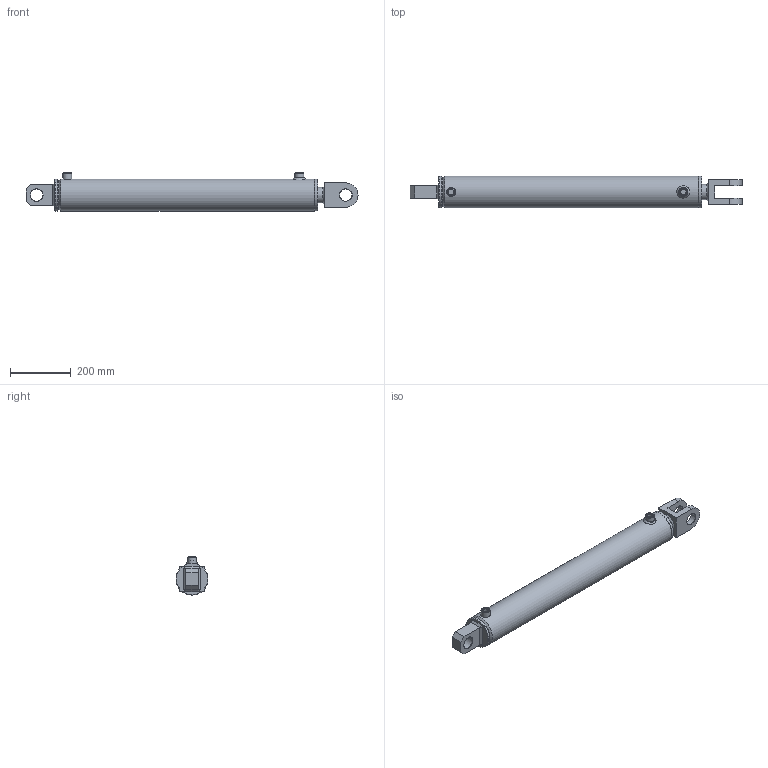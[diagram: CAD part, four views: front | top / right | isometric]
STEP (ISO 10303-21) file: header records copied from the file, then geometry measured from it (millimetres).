
FILE_DESCRIPTION( ( 'Unknown' ), '1' );
FILE_NAME( 'E:/LIBRERIA_3d/CILINDRI/HM5/HM5090500700.stp', 'Unknown', ( 'Unknown' ), ( 'Unknown' ), 'PSStep 17.0.49', 'Unknown', ' ' );
FILE_SCHEMA( ( 'AUTOMOTIVE_DESIGN { 1 0 10303 214 1 1 1 1 }' ) );
Length unit declared in the file: millimetre
Products named in the file (24): STL0901050700-oa2; Saldatura d'angolo 1-oa0; MAT_PRIMA_TUBO_FT10509000-oa1; CBSC220800; CG10509050; CT00090033; HM0090500700; CF00090105; CBS0800000; APG0800000; CDA0003320; SBL0500900700; Assem1; COF4000000; CFS0000040; Saldatura d'angolo 1-oa3; Saldatura con preparazione 1-oa4; Saldatura d'angolo 2-oa5
Assembly tree (18 placements, depth 4):
  Saldatura d'angolo 1-oa0
  Saldatura d'angolo 1-oa0
  Assem1
    COF4000000
    CFS0000040
    Saldatura con preparazione 1-oa4
    Saldatura con preparazione 1-oa4
    HM0090500700
      CF00090105
      CBS0800000
      APG0800000  x2
      CDA0003320
      SBL0500900700
      CG10509050
        CG10509050
      CT00090033
        CT00090033
      STL0901050700-oa2
        MAT_PRIMA_TUBO_FT10509000-oa1
        CBSC220800
  Saldatura d'angolo 1-oa3
  Saldatura d'angolo 1-oa3
Bounding box: 1091 x 105 x 125 mm (x, y, z)
Volume: 4744384.3 mm3; surface area: 882567.3 mm2
Topology: 20 solids, 20 shells, 253 faces, 538 edges, 332 vertices
Faces by surface type: plane 88, cylinder 65, cone 42, torus 36, bspline 22
Full cylindrical faces by diameter (mm): 4.25 x3, 8 x2, 12 x1, 18.631 x2, 19.5 x2, 20.95 x2, 26 x2, 30 x2, 32.4 x1, 33 x5, 39.2 x1, 40.25 x3, 50 x10, 53 x3, 58.6 x1, 60 x1, 70 x1, 81.5 x1, 84.15 x2, 88.31 x2, 89.9 x1, 90 x1, 90.3 x1, 90.5 x1, 90.6 x1, 91 x1, 92 x1, 92.835 x1, 95 x1, 104 x1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
Entity records: 9850 total; most frequent: CARTESIAN_POINT 3257, DIRECTION 972, ORIENTED_EDGE 664, AXIS2_PLACEMENT_3D 445, EDGE_LOOP 435, FACE_OUTER_BOUND 344, EDGE_CURVE 332, VERTEX_POINT 280
